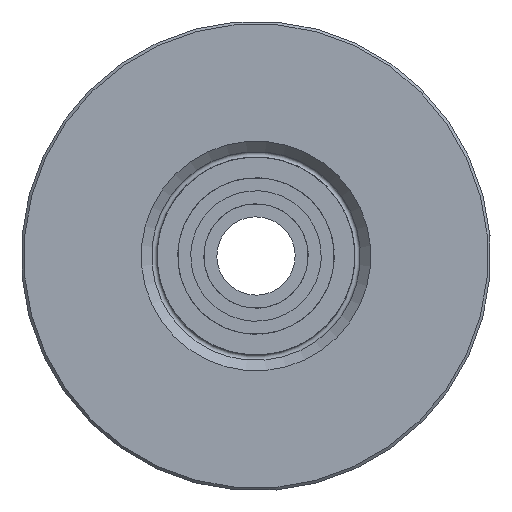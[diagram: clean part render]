
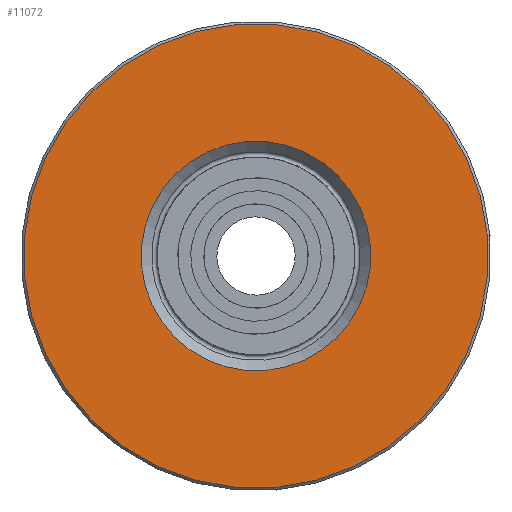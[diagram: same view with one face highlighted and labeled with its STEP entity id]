
A CAD part, front view. The second image highlights one B-rep face of the part: STEP entity #11072.
In plain terms, the highlighted planar face has unit normal (0, -1, 0).
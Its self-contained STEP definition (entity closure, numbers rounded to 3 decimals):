
#11072 = ADVANCED_FACE('',(#11073,#11109),#11086,.F.);
#11073 = FACE_BOUND('',#11074,.T.);
#11074 = EDGE_LOOP('',(#11075));
#11075 = ORIENTED_EDGE('',*,*,#11076,.T.);
#11076 = EDGE_CURVE('',#11077,#11077,#11079,.T.);
#11077 = VERTEX_POINT('',#11078);
#11078 = CARTESIAN_POINT('',(0.,-4.25,4.4));
#11079 = SURFACE_CURVE('',#11080,(#11085,#11097),.PCURVE_S1.);
#11080 = CIRCLE('',#11081,4.4);
#11081 = AXIS2_PLACEMENT_3D('',#11082,#11083,#11084);
#11082 = CARTESIAN_POINT('',(0.,-4.25,0.));
#11083 = DIRECTION('',(0.,1.,0.));
#11084 = DIRECTION('',(0.,-0.,1.));
#11085 = PCURVE('',#11086,#11091);
#11086 = PLANE('',#11087);
#11087 = AXIS2_PLACEMENT_3D('',#11088,#11089,#11090);
#11088 = CARTESIAN_POINT('',(4.,-4.25,0.));
#11089 = DIRECTION('',(0.,1.,0.));
#11090 = DIRECTION('',(0.,-0.,1.));
#11091 = DEFINITIONAL_REPRESENTATION('',(#11092),#11096);
#11092 = CIRCLE('',#11093,4.4);
#11093 = AXIS2_PLACEMENT_2D('',#11094,#11095);
#11094 = CARTESIAN_POINT('',(0.,-4.));
#11095 = DIRECTION('',(1.,0.));
#11096 = ( GEOMETRIC_REPRESENTATION_CONTEXT(2) 
PARAMETRIC_REPRESENTATION_CONTEXT() REPRESENTATION_CONTEXT('2D SPACE',''
  ) );
#11097 = PCURVE('',#11098,#11103);
#11098 = CONICAL_SURFACE('',#11099,4.4,0.785);
#11099 = AXIS2_PLACEMENT_3D('',#11100,#11101,#11102);
#11100 = CARTESIAN_POINT('',(0.,-4.25,0.));
#11101 = DIRECTION('',(0.,-1.,0.));
#11102 = DIRECTION('',(0.,0.,-1.));
#11103 = DEFINITIONAL_REPRESENTATION('',(#11104),#11108);
#11104 = LINE('',#11105,#11106);
#11105 = CARTESIAN_POINT('',(9.425,0.));
#11106 = VECTOR('',#11107,1.);
#11107 = DIRECTION('',(-1.,0.));
#11108 = ( GEOMETRIC_REPRESENTATION_CONTEXT(2) 
PARAMETRIC_REPRESENTATION_CONTEXT() REPRESENTATION_CONTEXT('2D SPACE',''
  ) );
#11109 = FACE_BOUND('',#11110,.T.);
#11110 = EDGE_LOOP('',(#11111));
#11111 = ORIENTED_EDGE('',*,*,#11112,.T.);
#11112 = EDGE_CURVE('',#11113,#11113,#11115,.T.);
#11113 = VERTEX_POINT('',#11114);
#11114 = CARTESIAN_POINT('',(0.,-4.25,8.9));
#11115 = SURFACE_CURVE('',#11116,(#11121,#11132),.PCURVE_S1.);
#11116 = CIRCLE('',#11117,8.9);
#11117 = AXIS2_PLACEMENT_3D('',#11118,#11119,#11120);
#11118 = CARTESIAN_POINT('',(0.,-4.25,0.));
#11119 = DIRECTION('',(0.,-1.,0.));
#11120 = DIRECTION('',(0.,0.,1.));
#11121 = PCURVE('',#11086,#11122);
#11122 = DEFINITIONAL_REPRESENTATION('',(#11123),#11131);
#11123 = ( BOUNDED_CURVE() B_SPLINE_CURVE(2,(#11124,#11125,#11126,#11127
    ,#11128,#11129,#11130),.UNSPECIFIED.,.T.,.F.) 
B_SPLINE_CURVE_WITH_KNOTS((1,2,2,2,2,1),(-2.094,0.,
    2.094,4.189,6.283,8.378),
.UNSPECIFIED.) CURVE() GEOMETRIC_REPRESENTATION_ITEM() 
RATIONAL_B_SPLINE_CURVE((1.,0.5,1.,0.5,1.,0.5,1.)) REPRESENTATION_ITEM(
  '') );
#11124 = CARTESIAN_POINT('',(8.9,-4.));
#11125 = CARTESIAN_POINT('',(8.9,-19.415));
#11126 = CARTESIAN_POINT('',(-4.45,-11.708));
#11127 = CARTESIAN_POINT('',(-17.8,-4.));
#11128 = CARTESIAN_POINT('',(-4.45,3.708));
#11129 = CARTESIAN_POINT('',(8.9,11.415));
#11130 = CARTESIAN_POINT('',(8.9,-4.));
#11131 = ( GEOMETRIC_REPRESENTATION_CONTEXT(2) 
PARAMETRIC_REPRESENTATION_CONTEXT() REPRESENTATION_CONTEXT('2D SPACE',''
  ) );
#11132 = PCURVE('',#11133,#11138);
#11133 = CONICAL_SURFACE('',#11134,9.,0.785);
#11134 = AXIS2_PLACEMENT_3D('',#11135,#11136,#11137);
#11135 = CARTESIAN_POINT('',(0.,-4.15,0.));
#11136 = DIRECTION('',(0.,1.,0.));
#11137 = DIRECTION('',(0.,-0.,1.));
#11138 = DEFINITIONAL_REPRESENTATION('',(#11139),#11143);
#11139 = LINE('',#11140,#11141);
#11140 = CARTESIAN_POINT('',(6.283,-0.1));
#11141 = VECTOR('',#11142,1.);
#11142 = DIRECTION('',(-1.,0.));
#11143 = ( GEOMETRIC_REPRESENTATION_CONTEXT(2) 
PARAMETRIC_REPRESENTATION_CONTEXT() REPRESENTATION_CONTEXT('2D SPACE',''
  ) );
